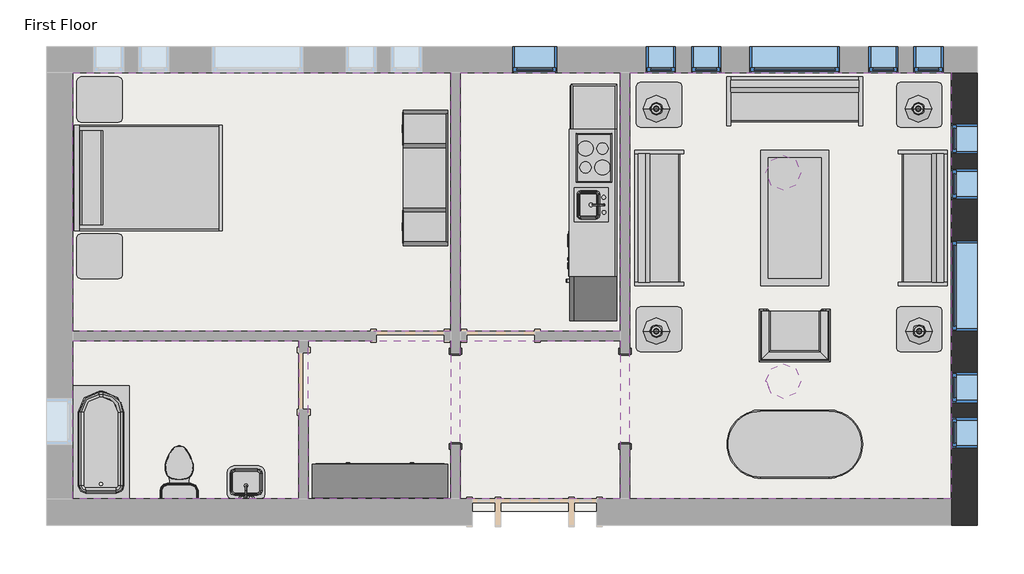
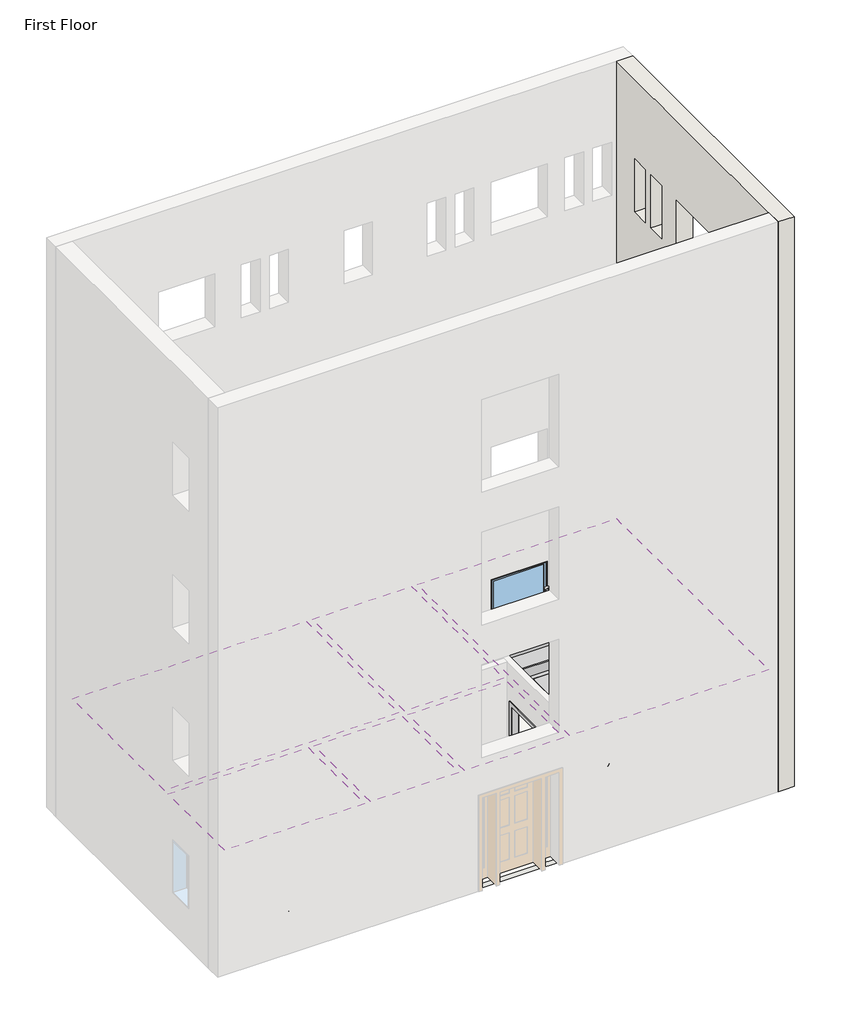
# One storey, part 2 of 2: 15 furniture elements, 11 windows, 6 coverings, 6 light fixtures, 3 flow terminals, 3 proxies, 1 slab, 1 wall.
"""IFC4 building model written with IfcOpenShell, lengths in millimetres."""

from ifc_helpers import new_model, si_unit, frame, origin, place, context, project, spatial, polyline, outline, extrude, faceted_brep, transform, mapped, element, save
from components import proxy_64a468c4, proxy_f44482cc, flow_terminal_0aeb31e3, toilet_domestic_3d_toilet_domestic_3d_f7549cf7, toilet_domestic_3d_toilet_domestic_3d_183bbd19, tub_rectangular_3d_tub_rectangular_3d_5e45a89b, furniture_096e7f55, chair_corbu_chair_corbu_2764bdef, furniture_7c473f12, furniture_ddc78764, furniture_4ef38d96, furniture_cd93a443, furniture_2c34a4f9, furniture_3a588284, furniture_1befe2a2, pendant_light_disk_100w_120v_c68bffb6, table_lamp_standard_60w_120v_6e8cd8b1, window_da97879f, window_d61ef850, window_60baf983, window_6eb97611

model = new_model("IFC4")

# Units and contexts
model_context = context("Model", 3, world=origin())
ifc_project = project(units=[si_unit("LENGTHUNIT", "METRE", prefix="MILLI")], contexts=[model_context])

# Site, building, storey
site = spatial("IfcSite", under=ifc_project)
building = spatial("IfcBuilding", under=site)
storey = spatial("IfcBuildingStorey", under=building, Name="First Floor", Elevation=0.0)

# Proxies
placement = place(None, origin())
proxy_shape = proxy_64a468c4(model_context)
element("IfcBuildingElementProxy", 1, Name="Kitchenette - Medium : 8'6\"", ObjectType="Kitchenette - Medium : 8'6\"", at=placement, inside=storey, context=model_context, shape_type="MappedRepresentation", body=[
    mapped(proxy_shape, transform((-3887.7589563, 8837.7956433, 0.0), x_axis=(0.0, -1.0, 0.0), y_axis=(1.0, 0.0, 0.0), z_axis=(0.0, 0.0, 1.0))),
])
proxy_2_shape = proxy_f44482cc(model_context)
element("IfcBuildingElementProxy", 2, Name="Opening-Cased : 48\" x 84\"", ObjectType="Opening-Cased : 48\" x 84\"", at=placement, inside=storey, context=model_context, shape_type="MappedRepresentation", body=[
    mapped(proxy_2_shape, transform((-3773.4589563, 5882.4203434, 0.0), x_axis=(0.0, 1.0, 0.0), y_axis=(-1.0, 0.0, 0.0), z_axis=(0.0, 0.0, 1.0))),
])
element("IfcBuildingElementProxy", 3, Name="Opening-Cased : 48\" x 84\"", ObjectType="Opening-Cased : 48\" x 84\"", at=placement, inside=storey, context=model_context, shape_type="MappedRepresentation", body=[
    mapped(proxy_2_shape, transform((-6059.4589563, 5866.04303, 0.0), x_axis=(0.0, -1.0, 0.0), y_axis=(1.0, 0.0, 0.0), z_axis=(0.0, 0.0, 1.0))),
])

# Coverings
element("IfcCovering", 4, ObjectType="GWB on Mtl. Stud", at=placement, inside=storey, context=model_context, shape_type="SweptSolid", body=[
    extrude(outline(polyline([(-11217.2464563, 10270.0191867), (-6122.9589563, 10270.0191867), (-6122.9589563, 6787.0441867), (-11217.2464563, 6787.0441867), (-11217.2464563, 10270.0191867)])), frame((0.0, 0.0, 2590.8), z_axis=(0.0, 0.0, 1.0), x_axis=(1.0, 0.0, 0.0)), (0.0, 0.0, 1.0), 107.95),
])
element("IfcCovering", 5, ObjectType="GWB on Mtl. Stud", at=placement, inside=storey, context=model_context, shape_type="SweptSolid", body=[
    extrude(outline(polyline([(-5995.9589563, 6787.0441867), (-5995.9589563, 10270.0191867), (-3836.9589563, 10270.0191867), (-3836.9589563, 6787.0441867), (-5995.9589563, 6787.0441867)])), frame((0.0, 0.0, 2590.8), z_axis=(0.0, 0.0, 1.0), x_axis=(1.0, 0.0, 0.0)), (0.0, 0.0, 1.0), 107.95),
])
element("IfcCovering", 6, ObjectType="GWB on Mtl. Stud", at=placement, inside=storey, context=model_context, shape_type="SweptSolid", body=[
    extrude(outline(polyline([(-3709.9589563, 4526.4441867), (-3709.9589563, 10270.0191867), (622.3285437, 10270.0191867), (622.3285437, 4526.4441867), (-3709.9589563, 4526.4441867)])), frame((0.0, 0.0, 2590.8), z_axis=(0.0, 0.0, 1.0), x_axis=(1.0, 0.0, 0.0)), (0.0, 0.0, 1.0), 107.95),
])
element("IfcCovering", 7, ObjectType="GWB on Mtl. Stud", at=placement, inside=storey, context=model_context, shape_type="SweptSolid", body=[
    extrude(outline(polyline([(-3836.9589563, 4526.4441867), (-5995.9589563, 4526.4441867), (-5995.9589563, 6660.0441867), (-3836.9589563, 6660.0441867), (-3836.9589563, 4526.4441867)])), frame((0.0, 0.0, 2590.8), z_axis=(0.0, 0.0, 1.0), x_axis=(1.0, 0.0, 0.0)), (0.0, 0.0, 1.0), 107.95),
])
element("IfcCovering", 8, ObjectType="GWB on Mtl. Stud", at=placement, inside=storey, context=model_context, shape_type="SweptSolid", body=[
    extrude(outline(polyline([(-6122.9589563, 4526.4441867), (-8042.2464563, 4526.4441867), (-8042.2464563, 6660.0441867), (-6122.9589563, 6660.0441867), (-6122.9589563, 4526.4441867)])), frame((0.0, 0.0, 2590.8), z_axis=(0.0, 0.0, 1.0), x_axis=(1.0, 0.0, 0.0)), (0.0, 0.0, 1.0), 107.95),
])
element("IfcCovering", 9, ObjectType="GWB on Mtl. Stud", at=placement, inside=storey, context=model_context, shape_type="SweptSolid", body=[
    extrude(outline(polyline([(-8169.2464563, 6660.0441867), (-8169.2464563, 4526.4441867), (-11217.2464563, 4526.4441867), (-11217.2464563, 6660.0441867), (-8169.2464563, 6660.0441867)])), frame((0.0, 0.0, 2590.8), z_axis=(0.0, 0.0, 1.0), x_axis=(1.0, 0.0, 0.0)), (0.0, 0.0, 1.0), 107.95),
])

# Flow terminals
flow_terminal_shape = flow_terminal_0aeb31e3(model_context)
element("IfcFlowTerminal", 10, ObjectType="Sink Vanity-Square : 24\" x 19\"", at=placement, inside=storey, context=model_context, shape_type="MappedRepresentation", body=[
    mapped(flow_terminal_shape, transform((-8864.7572157, 4706.5895878, 0.0), x_axis=(-1.0, 0.0, 0.0), y_axis=(0.0, -1.0, 0.0), z_axis=(0.0, 0.0, 1.0))),
])
toilet_domestic_3d_toilet_domestic_3d_shape = toilet_domestic_3d_toilet_domestic_3d_f7549cf7(model_context)
toilet_domestic_3d_toilet_domestic_3d_2_shape = toilet_domestic_3d_toilet_domestic_3d_183bbd19(model_context)
element("IfcFlowTerminal", 11, ObjectType="Toilet-Domestic-3D : Toilet-Domestic-3D", at=placement, inside=storey, context=model_context, shape_type="MappedRepresentation", body=[
    mapped(toilet_domestic_3d_toilet_domestic_3d_shape, transform((-9782.1466587, 4940.866411, 0.0), x_axis=(-1.0000000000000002, 0.0, 0.0), y_axis=(0.0, -1.0000000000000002, 0.0), z_axis=(0.0, 0.0, 1.0))),
    mapped(toilet_domestic_3d_toilet_domestic_3d_2_shape, transform((-9782.1466587, 4940.866411, 0.0), x_axis=(-1.0000000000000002, 0.0, 0.0), y_axis=(0.0, -1.0000000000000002, 0.0), z_axis=(0.0, 0.0, 1.0))),
])
tub_rectangular_3d_tub_rectangular_3d_shape = tub_rectangular_3d_tub_rectangular_3d_5e45a89b(model_context)
element("IfcFlowTerminal", 12, ObjectType="Tub-Rectangular-3D : Tub-Rectangular-3D", at=placement, inside=storey, context=model_context, shape_type="MappedRepresentation", body=[
    mapped(tub_rectangular_3d_tub_rectangular_3d_shape, transform((-11393.4589563, 5637.0471554, 0.0), x_axis=(0.0, 1.0, 0.0), y_axis=(-1.0, 0.0, 0.0), z_axis=(0.0, 0.0, 1.0))),
])

# Furniture
furniture_shape = furniture_096e7f55(model_context)
element("IfcFurniture", 13, ObjectType="Bed-Shaker : Double 56\" x 78\"", at=placement, inside=storey, context=model_context, shape_type="MappedRepresentation", body=[
    mapped(furniture_shape, transform((-11183.1982802, 8871.8755561, 0.0), x_axis=(0.0, 1.0, 0.0), y_axis=(-1.0, 0.0, 0.0), z_axis=(0.0, 0.0, 1.0))),
])
chair_corbu_chair_corbu_shape = chair_corbu_chair_corbu_2764bdef(model_context)
element("IfcFurniture", 14, ObjectType="Chair-Corbu : Chair-Corbu", at=placement, inside=storey, context=model_context, shape_type="MappedRepresentation", body=[
    mapped(chair_corbu_chair_corbu_shape, transform((-914.0851858, 7193.4962359, 0.0), x_axis=(-1.0, 0.0, 0.0), y_axis=(0.0, -1.0, 0.0), z_axis=(0.0, 0.0, 1.0))),
])
furniture_2_shape = furniture_7c473f12(model_context)
element("IfcFurniture", 15, ObjectType="Dresser : 72\" x 60\" x 18\"", at=placement, inside=storey, context=model_context, shape_type="MappedRepresentation", body=[
    mapped(furniture_2_shape, transform((-7344.6522161, 4404.5812326, 0.0), x_axis=(-1.0, 0.0, 0.0), y_axis=(0.0, -1.0, 0.0), z_axis=(0.0, 0.0, 1.0))),
])
furniture_3_shape = furniture_ddc78764(model_context)
element("IfcFurniture", 16, ObjectType="Entertainment Center : 72\" x 72\" x 24\"", at=placement, inside=storey, context=model_context, shape_type="MappedRepresentation", body=[
    mapped(furniture_3_shape, transform((-6059.4589563, 8852.8255561, 0.0), x_axis=(0.0, -1.0, 0.0), y_axis=(1.0, 0.0, 0.0), z_axis=(0.0, 0.0, 1.0))),
])
furniture_4_shape = furniture_4ef38d96(model_context)
element("IfcFurniture", 17, ObjectType="Sofa : 72\"", at=placement, inside=storey, context=model_context, shape_type="MappedRepresentation", body=[
    mapped(furniture_4_shape, transform((-1557.8294481, 9741.2775883, 0.0), x_axis=(1.0, 0.0, 0.0), y_axis=(0.0, 1.0, 0.0), z_axis=(0.0, 0.0, 1.0))),
])
element("IfcFurniture", 18, ObjectType="Sofa : 72\"", at=placement, inside=storey, context=model_context, shape_type="MappedRepresentation", body=[
    mapped(furniture_4_shape, transform((93.5869453, 8383.0021785, 0.0), x_axis=(0.0, -1.0, 0.0), y_axis=(1.0, 0.0, 0.0), z_axis=(0.0, 0.0, 1.0))),
])
element("IfcFurniture", 19, ObjectType="Sofa : 72\"", at=placement, inside=storey, context=model_context, shape_type="MappedRepresentation", body=[
    mapped(furniture_4_shape, transform((-3170.104858, 8242.2611949, 0.0), x_axis=(0.0, 1.0, 0.0), y_axis=(-1.0, 0.0, 0.0), z_axis=(0.0, 0.0, 1.0))),
])
furniture_5_shape = furniture_cd93a443(model_context)
element("IfcFurniture", 20, ObjectType="Table-Coffee : 36\" x 72\" x 18\"", at=placement, inside=storey, context=model_context, shape_type="MappedRepresentation", body=[
    mapped(furniture_5_shape, transform((-1582.6700341, 8330.8974534, 0.0), x_axis=(0.0, -1.0, 0.0), y_axis=(1.0, 0.0, 0.0), z_axis=(0.0, 0.0, 1.0))),
])
furniture_6_shape = furniture_2c34a4f9(model_context)
element("IfcFurniture", 21, ObjectType="Table-Dining Oval : 36\" x 72\"", at=placement, inside=storey, context=model_context, shape_type="MappedRepresentation", body=[
    mapped(furniture_6_shape, transform((-1085.6392842, 5622.7300473, 0.0), x_axis=(1.0, 0.0, 0.0), y_axis=(0.0, 1.0, 0.0), z_axis=(0.0, 0.0, 1.0))),
])
furniture_7_shape = furniture_3a588284(model_context)
element("IfcFurniture", 22, ObjectType="Table-End : 24\" x 24\"", at=placement, inside=storey, context=model_context, shape_type="MappedRepresentation", body=[
    mapped(furniture_7_shape, transform((-119.5925866, 9684.2316867, 0.0), x_axis=(1.0, 0.0, 0.0), y_axis=(0.0, 1.0, 0.0), z_axis=(0.0, 0.0, 1.0))),
])
element("IfcFurniture", 23, ObjectType="Table-End : 24\" x 24\"", at=placement, inside=storey, context=model_context, shape_type="MappedRepresentation", body=[
    mapped(furniture_7_shape, transform((-3624.7925866, 9684.2316867, 0.0), x_axis=(1.0, 0.0, 0.0), y_axis=(0.0, 1.0, 0.0), z_axis=(0.0, 0.0, 1.0))),
])
element("IfcFurniture", 24, ObjectType="Table-End : 24\" x 24\"", at=placement, inside=storey, context=model_context, shape_type="MappedRepresentation", body=[
    mapped(furniture_7_shape, transform((-3624.7925866, 6660.0441867, 0.0), x_axis=(1.0, 0.0, 0.0), y_axis=(0.0, 1.0, 0.0), z_axis=(0.0, 0.0, 1.0))),
])
element("IfcFurniture", 25, ObjectType="Table-End : 24\" x 24\"", at=placement, inside=storey, context=model_context, shape_type="MappedRepresentation", body=[
    mapped(furniture_7_shape, transform((-119.5925866, 6660.0441867, 0.0), x_axis=(1.0, 0.0, 0.0), y_axis=(0.0, 1.0, 0.0), z_axis=(0.0, 0.0, 1.0))),
])
element("IfcFurniture", 26, ObjectType="Table-End : 24\" x 24\"", at=placement, inside=storey, context=model_context, shape_type="MappedRepresentation", body=[
    mapped(furniture_7_shape, transform((-11164.2346356, 9756.0737357, 0.0), x_axis=(1.0, 0.0, 0.0), y_axis=(0.0, 1.0, 0.0), z_axis=(0.0, 0.0, 1.0))),
])
furniture_8_shape = furniture_1befe2a2(model_context)
element("IfcFurniture", 27, ObjectType="Table-End : 24\" x 24\"", at=placement, inside=storey, context=model_context, shape_type="MappedRepresentation", body=[
    mapped(furniture_8_shape, transform((-11164.2346356, 7949.5773764, 0.0), x_axis=(1.0, 0.0, 0.0), y_axis=(0.0, 1.0, 0.0), z_axis=(0.0, 0.0, 1.0))),
])

# Light fixtures
pendant_light_disk_100w_120v_shape = pendant_light_disk_100w_120v_c68bffb6(model_context)
element("IfcLightFixture", 28, ObjectType="Pendant Light - Disk : 100W - 120V", at=placement, inside=storey, context=model_context, shape_type="MappedRepresentation", body=[
    mapped(pendant_light_disk_100w_120v_shape, transform((-1639.8589563, 8922.2316867, 152.3999938), x_axis=(1.0, 0.0, 0.0), y_axis=(0.0, 1.0, 0.0), z_axis=(0.0, 0.0, 1.0))),
])
element("IfcLightFixture", 29, ObjectType="Pendant Light - Disk : 100W - 120V", at=placement, inside=storey, context=model_context, shape_type="MappedRepresentation", body=[
    mapped(pendant_light_disk_100w_120v_shape, transform((-1639.8589563, 6113.9441867, 152.3999938), x_axis=(1.0, 0.0, 0.0), y_axis=(0.0, 1.0, 0.0), z_axis=(0.0, 0.0, 1.0))),
])
table_lamp_standard_60w_120v_shape = table_lamp_standard_60w_120v_6e8cd8b1(model_context)
element("IfcLightFixture", 30, ObjectType="Table Lamp - Standard : 60W - 120V", at=placement, inside=storey, context=model_context, shape_type="MappedRepresentation", body=[
    mapped(table_lamp_standard_60w_120v_shape, transform((188.9410437, 6787.0441867, 381.0), x_axis=(1.0, 0.0, 0.0), y_axis=(0.0, 1.0, 0.0), z_axis=(0.0, 0.0, 1.0))),
])
element("IfcLightFixture", 31, ObjectType="Table Lamp - Standard : 60W - 120V", at=placement, inside=storey, context=model_context, shape_type="MappedRepresentation", body=[
    mapped(table_lamp_standard_60w_120v_shape, transform((-3352.8, 6787.0441867, 381.0), x_axis=(1.0, 0.0, 0.0), y_axis=(0.0, 1.0, 0.0), z_axis=(0.0, 0.0, 1.0))),
])
element("IfcLightFixture", 32, ObjectType="Table Lamp - Standard : 60W - 120V", at=placement, inside=storey, context=model_context, shape_type="MappedRepresentation", body=[
    mapped(table_lamp_standard_60w_120v_shape, transform((-3352.8, 9784.2441867, 381.0), x_axis=(1.0, 0.0, 0.0), y_axis=(0.0, 1.0, 0.0), z_axis=(0.0, 0.0, 1.0))),
])
element("IfcLightFixture", 33, ObjectType="Table Lamp - Standard : 60W - 120V", at=placement, inside=storey, context=model_context, shape_type="MappedRepresentation", body=[
    mapped(table_lamp_standard_60w_120v_shape, transform((177.8, 9784.2441867, 381.0), x_axis=(1.0, 0.0, 0.0), y_axis=(0.0, 1.0, 0.0), z_axis=(0.0, 0.0, 1.0))),
])

# Slab
element("IfcSlab", 34, ObjectType="LW Concrete on Metal Deck", at=placement, inside=storey, context=model_context, shape_type="SweptSolid", body=[
    extrude(outline(polyline([(787.4285437, 10435.1191867), (787.4285437, 4361.3441867), (-11382.3464563, 4361.3441867), (-11382.3464563, 10435.1191867), (787.4285437, 10435.1191867)])), frame((0.0, 0.0, -104.775), z_axis=(0.0, 0.0, 1.0), x_axis=(1.0, 0.0, 0.0)), (0.0, 0.0, 1.0), 104.775),
])

# Wall
element("IfcWall", 35, ObjectType="Exterior - Brick on Mtl. Stud", at=placement, inside=storey, context=model_context, shape_type="Brep", body=[
    faceted_brep([(622.3285437, 10270.0191867, 13106.4), (622.3285437, 4526.4441867, 13106.4), (622.3285437, 4174.0191867, 13106.4), (974.7535437, 4174.0191867, 13106.4), (974.7535437, 10270.0191867, 13106.4), (622.3285437, 10270.0191867, 0.0), (622.3285437, 4526.4441867, 0.0), (622.3285437, 4361.3441867, 0.0), (622.3285437, 4174.0191867, 0.0), (622.3285437, 5823.4316867, 8229.6), (622.3285437, 5823.4316867, 7010.4), (622.3285437, 6229.8316867, 7010.4), (622.3285437, 6229.8316867, 8229.6), (622.3285437, 5213.8316867, 8229.6), (622.3285437, 5213.8316867, 7010.4), (622.3285437, 5620.2316867, 7010.4), (622.3285437, 5620.2316867, 8229.6), (622.3285437, 8973.0316867, 8229.6), (622.3285437, 8566.6316867, 8229.6), (622.3285437, 8566.6316867, 7010.4), (622.3285437, 8973.0316867, 7010.4), (622.3285437, 9582.6316867, 8229.6), (622.3285437, 9176.2316867, 8229.6), (622.3285437, 9176.2316867, 7010.4), (622.3285437, 9582.6316867, 7010.4), (622.3285437, 8007.8316867, 8229.6), (622.3285437, 6788.6316867, 8229.6), (622.3285437, 6788.6316867, 7010.4), (622.3285437, 8007.8316867, 7010.4), (622.3285437, 5823.4316867, 5181.6), (622.3285437, 5823.4316867, 3962.4), (622.3285437, 6229.8316867, 3962.4), (622.3285437, 6229.8316867, 5181.6), (622.3285437, 5213.8316867, 5181.6), (622.3285437, 5213.8316867, 3962.4), (622.3285437, 5620.2316867, 3962.4), (622.3285437, 5620.2316867, 5181.6), (622.3285437, 8973.0316867, 5181.6), (622.3285437, 8566.6316867, 5181.6), (622.3285437, 8566.6316867, 3962.4), (622.3285437, 8973.0316867, 3962.4), (622.3285437, 9582.6316867, 5181.6), (622.3285437, 9176.2316867, 5181.6), (622.3285437, 9176.2316867, 3962.4), (622.3285437, 9582.6316867, 3962.4), (622.3285437, 8007.8316867, 5181.6), (622.3285437, 6788.6316867, 5181.6), (622.3285437, 6788.6316867, 3962.4), (622.3285437, 8007.8316867, 3962.4), (622.3285437, 5823.4316867, 11277.6), (622.3285437, 5823.4316867, 10058.4), (622.3285437, 6229.8316867, 10058.4), (622.3285437, 6229.8316867, 11277.6), (622.3285437, 5213.8316867, 11277.6), (622.3285437, 5213.8316867, 10058.4), (622.3285437, 5620.2316867, 10058.4), (622.3285437, 5620.2316867, 11277.6), (622.3285437, 8973.0316867, 11277.6), (622.3285437, 8566.6316867, 11277.6), (622.3285437, 8566.6316867, 10058.4), (622.3285437, 8973.0316867, 10058.4), (622.3285437, 9582.6316867, 11277.6), (622.3285437, 9176.2316867, 11277.6), (622.3285437, 9176.2316867, 10058.4), (622.3285437, 9582.6316867, 10058.4), (622.3285437, 8007.8316867, 11277.6), (622.3285437, 6788.6316867, 11277.6), (622.3285437, 6788.6316867, 10058.4), (622.3285437, 8007.8316867, 10058.4), (622.3285437, 5823.4316867, 2133.6), (622.3285437, 5823.4316867, 914.4), (622.3285437, 6229.8316867, 914.4), (622.3285437, 6229.8316867, 2133.6), (622.3285437, 5213.8316867, 2133.6), (622.3285437, 5213.8316867, 914.4), (622.3285437, 5620.2316867, 914.4), (622.3285437, 5620.2316867, 2133.6), (622.3285437, 8973.0316867, 2133.6), (622.3285437, 8566.6316867, 2133.6), (622.3285437, 8566.6316867, 914.4), (622.3285437, 8973.0316867, 914.4), (622.3285437, 9582.6316867, 2133.6), (622.3285437, 9176.2316867, 2133.6), (622.3285437, 9176.2316867, 914.4), (622.3285437, 9582.6316867, 914.4), (622.3285437, 8007.8316867, 2133.6), (622.3285437, 6788.6316867, 2133.6), (622.3285437, 6788.6316867, 914.4), (622.3285437, 8007.8316867, 914.4), (974.7535437, 10270.0191867, 0.0), (974.7535437, 4174.0191867, 0.0), (974.7535437, 4361.3441867, 0.0), (974.7535437, 5823.4316867, 8229.6), (974.7535437, 6229.8316867, 8229.6), (974.7535437, 6229.8316867, 7010.4), (974.7535437, 5823.4316867, 7010.4), (974.7535437, 5213.8316867, 8229.6), (974.7535437, 5620.2316867, 8229.6), (974.7535437, 5620.2316867, 7010.4), (974.7535437, 5213.8316867, 7010.4), (974.7535437, 8973.0316867, 8229.6), (974.7535437, 8973.0316867, 7010.4), (974.7535437, 8566.6316867, 7010.4), (974.7535437, 8566.6316867, 8229.6), (974.7535437, 9582.6316867, 8229.6), (974.7535437, 9582.6316867, 7010.4), (974.7535437, 9176.2316867, 7010.4), (974.7535437, 9176.2316867, 8229.6), (974.7535437, 8007.8316867, 8229.6), (974.7535437, 8007.8316867, 7010.4), (974.7535437, 6788.6316867, 7010.4), (974.7535437, 6788.6316867, 8229.6), (974.7535437, 5823.4316867, 5181.6), (974.7535437, 6229.8316867, 5181.6), (974.7535437, 6229.8316867, 3962.4), (974.7535437, 5823.4316867, 3962.4), (974.7535437, 5213.8316867, 5181.6), (974.7535437, 5620.2316867, 5181.6), (974.7535437, 5620.2316867, 3962.4), (974.7535437, 5213.8316867, 3962.4), (974.7535437, 8973.0316867, 5181.6), (974.7535437, 8973.0316867, 3962.4), (974.7535437, 8566.6316867, 3962.4), (974.7535437, 8566.6316867, 5181.6), (974.7535437, 9582.6316867, 5181.6), (974.7535437, 9582.6316867, 3962.4), (974.7535437, 9176.2316867, 3962.4), (974.7535437, 9176.2316867, 5181.6), (974.7535437, 8007.8316867, 5181.6), (974.7535437, 8007.8316867, 3962.4), (974.7535437, 6788.6316867, 3962.4), (974.7535437, 6788.6316867, 5181.6), (974.7535437, 5823.4316867, 11277.6), (974.7535437, 6229.8316867, 11277.6), (974.7535437, 6229.8316867, 10058.4), (974.7535437, 5823.4316867, 10058.4), (974.7535437, 5213.8316867, 11277.6), (974.7535437, 5620.2316867, 11277.6), (974.7535437, 5620.2316867, 10058.4), (974.7535437, 5213.8316867, 10058.4), (974.7535437, 8973.0316867, 11277.6), (974.7535437, 8973.0316867, 10058.4), (974.7535437, 8566.6316867, 10058.4), (974.7535437, 8566.6316867, 11277.6), (974.7535437, 9582.6316867, 11277.6), (974.7535437, 9582.6316867, 10058.4), (974.7535437, 9176.2316867, 10058.4), (974.7535437, 9176.2316867, 11277.6), (974.7535437, 8007.8316867, 11277.6), (974.7535437, 8007.8316867, 10058.4), (974.7535437, 6788.6316867, 10058.4), (974.7535437, 6788.6316867, 11277.6), (974.7535437, 5823.4316867, 2133.6), (974.7535437, 6229.8316867, 2133.6), (974.7535437, 6229.8316867, 914.4), (974.7535437, 5823.4316867, 914.4), (974.7535437, 5213.8316867, 2133.6), (974.7535437, 5620.2316867, 2133.6), (974.7535437, 5620.2316867, 914.4), (974.7535437, 5213.8316867, 914.4), (974.7535437, 8973.0316867, 2133.6), (974.7535437, 8973.0316867, 914.4), (974.7535437, 8566.6316867, 914.4), (974.7535437, 8566.6316867, 2133.6), (974.7535437, 9582.6316867, 2133.6), (974.7535437, 9582.6316867, 914.4), (974.7535437, 9176.2316867, 914.4), (974.7535437, 9176.2316867, 2133.6), (974.7535437, 8007.8316867, 2133.6), (974.7535437, 8007.8316867, 914.4), (974.7535437, 6788.6316867, 914.4), (974.7535437, 6788.6316867, 2133.6), (787.4285437, 10270.0191867, 0.0), (787.4285437, 4174.0191867, 0.0), (787.4285437, 4361.3441867, 0.0)], [[[0, 1, 2, 3, 4]], [[5, 6, 7, 8, 2, 1, 0], [9, 10, 11, 12], [13, 14, 15, 16], [17, 18, 19, 20], [21, 22, 23, 24], [25, 26, 27, 28], [29, 30, 31, 32], [33, 34, 35, 36], [37, 38, 39, 40], [41, 42, 43, 44], [45, 46, 47, 48], [49, 50, 51, 52], [53, 54, 55, 56], [57, 58, 59, 60], [61, 62, 63, 64], [65, 66, 67, 68], [69, 70, 71, 72], [73, 74, 75, 76], [77, 78, 79, 80], [81, 82, 83, 84], [85, 86, 87, 88]], [[89, 4, 3, 90, 91], [92, 93, 94, 95], [96, 97, 98, 99], [100, 101, 102, 103], [104, 105, 106, 107], [108, 109, 110, 111], [112, 113, 114, 115], [116, 117, 118, 119], [120, 121, 122, 123], [124, 125, 126, 127], [128, 129, 130, 131], [132, 133, 134, 135], [136, 137, 138, 139], [140, 141, 142, 143], [144, 145, 146, 147], [148, 149, 150, 151], [152, 153, 154, 155], [156, 157, 158, 159], [160, 161, 162, 163], [164, 165, 166, 167], [168, 169, 170, 171]], [[5, 0, 4, 89, 172]], [[2, 8, 173, 90, 3]], [[172, 89, 91, 174]], [[8, 7, 174, 173]], [[174, 91, 90, 173]], [[7, 6, 5, 172, 174]], [[10, 9, 92, 95]], [[11, 10, 95, 94]], [[12, 11, 94, 93]], [[9, 12, 93, 92]], [[14, 13, 96, 99]], [[15, 14, 99, 98]], [[16, 15, 98, 97]], [[13, 16, 97, 96]], [[101, 100, 17, 20]], [[102, 101, 20, 19]], [[103, 102, 19, 18]], [[100, 103, 18, 17]], [[105, 104, 21, 24]], [[106, 105, 24, 23]], [[107, 106, 23, 22]], [[104, 107, 22, 21]], [[109, 108, 25, 28]], [[110, 109, 28, 27]], [[111, 110, 27, 26]], [[108, 111, 26, 25]], [[30, 29, 112, 115]], [[31, 30, 115, 114]], [[32, 31, 114, 113]], [[29, 32, 113, 112]], [[34, 33, 116, 119]], [[35, 34, 119, 118]], [[36, 35, 118, 117]], [[33, 36, 117, 116]], [[121, 120, 37, 40]], [[122, 121, 40, 39]], [[123, 122, 39, 38]], [[120, 123, 38, 37]], [[125, 124, 41, 44]], [[126, 125, 44, 43]], [[127, 126, 43, 42]], [[124, 127, 42, 41]], [[129, 128, 45, 48]], [[130, 129, 48, 47]], [[131, 130, 47, 46]], [[128, 131, 46, 45]], [[50, 49, 132, 135]], [[51, 50, 135, 134]], [[52, 51, 134, 133]], [[49, 52, 133, 132]], [[54, 53, 136, 139]], [[55, 54, 139, 138]], [[56, 55, 138, 137]], [[53, 56, 137, 136]], [[141, 140, 57, 60]], [[142, 141, 60, 59]], [[143, 142, 59, 58]], [[140, 143, 58, 57]], [[145, 144, 61, 64]], [[146, 145, 64, 63]], [[147, 146, 63, 62]], [[144, 147, 62, 61]], [[149, 148, 65, 68]], [[150, 149, 68, 67]], [[151, 150, 67, 66]], [[148, 151, 66, 65]], [[70, 69, 152, 155]], [[71, 70, 155, 154]], [[72, 71, 154, 153]], [[69, 72, 153, 152]], [[74, 73, 156, 159]], [[75, 74, 159, 158]], [[76, 75, 158, 157]], [[73, 76, 157, 156]], [[161, 160, 77, 80]], [[162, 161, 80, 79]], [[163, 162, 79, 78]], [[160, 163, 78, 77]], [[165, 164, 81, 84]], [[166, 165, 84, 83]], [[167, 166, 83, 82]], [[164, 167, 82, 81]], [[169, 168, 85, 88]], [[170, 169, 88, 87]], [[171, 170, 87, 86]], [[168, 171, 86, 85]]]),
])

# Windows
window_shape = window_da97879f(model_context)
element("IfcWindow", 36, ObjectType="Fixed : 16\" x 48\"", at=placement, inside=storey, context=model_context, shape_type="MappedRepresentation", body=[
    mapped(window_shape, transform((-3328.9589563, 10446.2316867, 0.0), x_axis=(-1.0, 0.0, 0.0), y_axis=(0.0, -1.0, 0.0), z_axis=(0.0, 0.0, 1.0))),
])
element("IfcWindow", 37, ObjectType="Fixed : 16\" x 48\"", at=placement, inside=storey, context=model_context, shape_type="MappedRepresentation", body=[
    mapped(window_shape, transform((-2719.3589563, 10446.2316867, 0.0), x_axis=(-1.0, 0.0, 0.0), y_axis=(0.0, -1.0, 0.0), z_axis=(0.0, 0.0, 1.0))),
])
element("IfcWindow", 38, ObjectType="Fixed : 16\" x 48\"", at=placement, inside=storey, context=model_context, shape_type="MappedRepresentation", body=[
    mapped(window_shape, transform((798.5410437, 9417.5316867, 0.0), x_axis=(0.0, 1.0, 0.0), y_axis=(-1.0, 0.0, 0.0), z_axis=(0.0, 0.0, 1.0))),
])
element("IfcWindow", 39, ObjectType="Fixed : 16\" x 48\"", at=placement, inside=storey, context=model_context, shape_type="MappedRepresentation", body=[
    mapped(window_shape, transform((798.5410437, 8807.9316867, 0.0), x_axis=(0.0, 1.0, 0.0), y_axis=(-1.0, 0.0, 0.0), z_axis=(0.0, 0.0, 1.0))),
])
window_2_shape = window_d61ef850(model_context)
element("IfcWindow", 40, ObjectType="Fixed : 16\" x 48\"", at=placement, inside=storey, context=model_context, shape_type="MappedRepresentation", body=[
    mapped(window_2_shape, transform((354.0410437, 10446.2316867, 0.0), x_axis=(1.0, 0.0, 0.0), y_axis=(0.0, 1.0, 0.0), z_axis=(0.0, 0.0, 1.0))),
])
element("IfcWindow", 41, ObjectType="Fixed : 16\" x 48\"", at=placement, inside=storey, context=model_context, shape_type="MappedRepresentation", body=[
    mapped(window_2_shape, transform((-255.5589563, 10446.2316867, 0.0), x_axis=(1.0, 0.0, 0.0), y_axis=(0.0, 1.0, 0.0), z_axis=(0.0, 0.0, 1.0))),
])
element("IfcWindow", 42, ObjectType="Fixed : 16\" x 48\"", at=placement, inside=storey, context=model_context, shape_type="MappedRepresentation", body=[
    mapped(window_2_shape, transform((798.5410437, 5378.9316867, 0.0), x_axis=(0.0, -1.0, 0.0), y_axis=(1.0, 0.0, 0.0), z_axis=(0.0, 0.0, 1.0))),
])
element("IfcWindow", 43, ObjectType="Fixed : 16\" x 48\"", at=placement, inside=storey, context=model_context, shape_type="MappedRepresentation", body=[
    mapped(window_2_shape, transform((798.5410437, 5988.5316867, 0.0), x_axis=(0.0, -1.0, 0.0), y_axis=(1.0, 0.0, 0.0), z_axis=(0.0, 0.0, 1.0))),
])
window_3_shape = window_60baf983(model_context)
element("IfcWindow", 44, ObjectType="Fixed : 24\" x 48\"", at=placement, inside=storey, context=model_context, shape_type="MappedRepresentation", body=[
    mapped(window_3_shape, transform((-5030.7589563, 10446.2316867, 0.0), x_axis=(-1.0, 0.0, 0.0), y_axis=(0.0, -1.0, 0.0), z_axis=(0.0, 0.0, 1.0))),
])
window_4_shape = window_6eb97611(model_context)
element("IfcWindow", 45, ObjectType="Fixed : 48\" x 48\"", at=placement, inside=storey, context=model_context, shape_type="MappedRepresentation", body=[
    mapped(window_4_shape, transform((-1525.5589563, 10446.2316867, 0.0), x_axis=(-1.0, 0.0, 0.0), y_axis=(0.0, -1.0, 0.0), z_axis=(0.0, 0.0, 1.0))),
])
element("IfcWindow", 46, ObjectType="Fixed : 48\" x 48\"", at=placement, inside=storey, context=model_context, shape_type="MappedRepresentation", body=[
    mapped(window_4_shape, transform((798.5410437, 7436.3316867, 0.0), x_axis=(0.0, 1.0, 0.0), y_axis=(-1.0, 0.0, 0.0), z_axis=(0.0, 0.0, 1.0))),
])

save(model, "model.ifc")
